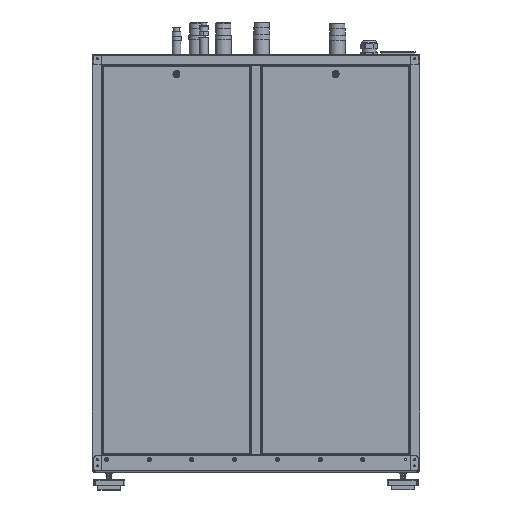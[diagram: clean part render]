
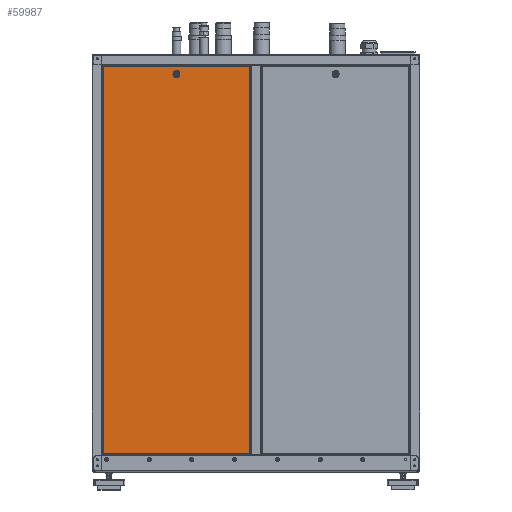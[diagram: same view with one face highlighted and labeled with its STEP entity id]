
A CAD part, left-side view. The second image highlights one B-rep face of the part: STEP entity #59987.
In plain terms, the highlighted planar face has unit normal (-1, 0, 0).
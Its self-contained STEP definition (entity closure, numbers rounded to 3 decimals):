
#1131=FACE_BOUND('',#17108,.T.);
#2682=LINE('',#91657,#7802);
#2683=LINE('',#91659,#7803);
#2684=LINE('',#91661,#7804);
#2685=LINE('',#91662,#7805);
#7802=VECTOR('',#72189,10.);
#7803=VECTOR('',#72190,10.);
#7804=VECTOR('',#72191,10.);
#7805=VECTOR('',#72192,10.);
#13649=FACE_OUTER_BOUND('',#17107,.T.);
#17107=EDGE_LOOP('',(#40283,#40284,#40285,#40286));
#17108=EDGE_LOOP('',(#40287,#40288));
#21027=CIRCLE('',#63957,14.);
#21028=CIRCLE('',#63958,14.);
#24359=VERTEX_POINT('',#91642);
#24360=VERTEX_POINT('',#91644);
#24362=VERTEX_POINT('',#91655);
#24363=VERTEX_POINT('',#91656);
#24364=VERTEX_POINT('',#91658);
#24365=VERTEX_POINT('',#91660);
#30266=EDGE_CURVE('',#24360,#24359,#21027,.T.);
#30267=EDGE_CURVE('',#24359,#24360,#21028,.T.);
#30271=EDGE_CURVE('',#24362,#24363,#2682,.T.);
#30272=EDGE_CURVE('',#24363,#24364,#2683,.T.);
#30273=EDGE_CURVE('',#24364,#24365,#2684,.T.);
#30274=EDGE_CURVE('',#24365,#24362,#2685,.T.);
#40283=ORIENTED_EDGE('',*,*,#30271,.T.);
#40284=ORIENTED_EDGE('',*,*,#30272,.T.);
#40285=ORIENTED_EDGE('',*,*,#30273,.T.);
#40286=ORIENTED_EDGE('',*,*,#30274,.T.);
#40287=ORIENTED_EDGE('',*,*,#30266,.T.);
#40288=ORIENTED_EDGE('',*,*,#30267,.T.);
#54497=PLANE('',#63962);
#59987=ADVANCED_FACE('',(#13649,#1131),#54497,.T.);
#63957=AXIS2_PLACEMENT_3D('',#91645,#72174,#72175);
#63958=AXIS2_PLACEMENT_3D('',#91646,#72176,#72177);
#63962=AXIS2_PLACEMENT_3D('',#91654,#72187,#72188);
#72174=DIRECTION('center_axis',(1.,0.,0.));
#72175=DIRECTION('ref_axis',(0.,-1.,0.));
#72176=DIRECTION('center_axis',(1.,0.,0.));
#72177=DIRECTION('ref_axis',(0.,-1.,0.));
#72187=DIRECTION('center_axis',(-1.,0.,0.));
#72188=DIRECTION('ref_axis',(0.,-1.,0.));
#72189=DIRECTION('',(0.,-1.,0.));
#72190=DIRECTION('',(0.,0.,1.));
#72191=DIRECTION('',(0.,1.,0.));
#72192=DIRECTION('',(0.,0.,-1.));
#91642=CARTESIAN_POINT('',(-345.,330.25,752.75));
#91644=CARTESIAN_POINT('',(-345.,319.439,739.118));
#91645=CARTESIAN_POINT('Origin',(-345.,316.25,752.75));
#91646=CARTESIAN_POINT('Origin',(-345.,316.25,752.75));
#91654=CARTESIAN_POINT('Origin',(-345.,317.,14.5));
#91655=CARTESIAN_POINT('',(-345.,608.,-756.));
#91656=CARTESIAN_POINT('',(-345.,26.,-756.));
#91657=CARTESIAN_POINT('',(-345.,462.5,-756.));
#91658=CARTESIAN_POINT('',(-345.,26.,785.));
#91659=CARTESIAN_POINT('',(-345.,26.,-370.75));
#91660=CARTESIAN_POINT('',(-345.,608.,785.));
#91661=CARTESIAN_POINT('',(-345.,171.5,785.));
#91662=CARTESIAN_POINT('',(-345.,608.,399.75));
